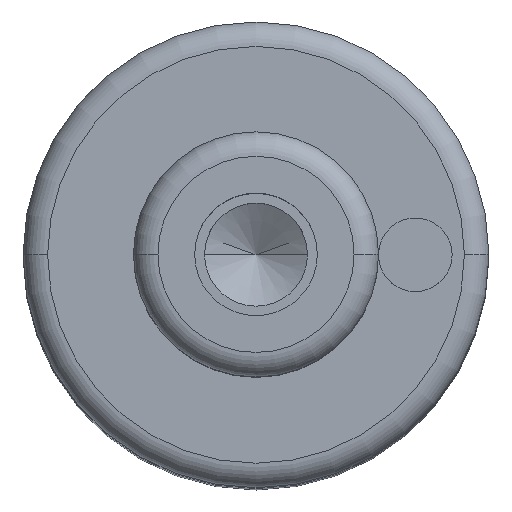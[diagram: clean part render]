
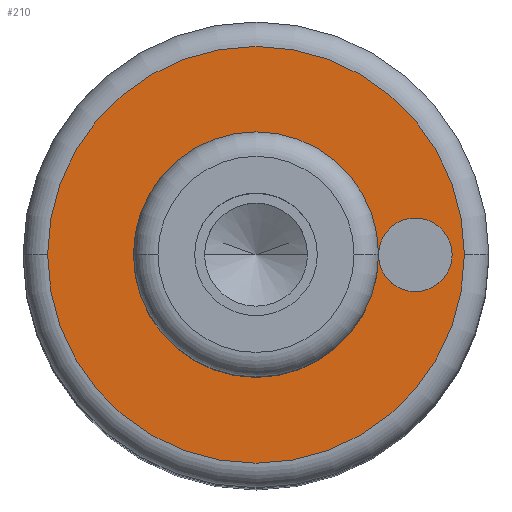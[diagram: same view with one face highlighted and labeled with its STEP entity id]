
A CAD part, top view. The second image highlights one B-rep face of the part: STEP entity #210.
In plain terms, the highlighted planar face has unit normal (0, 0, 1).
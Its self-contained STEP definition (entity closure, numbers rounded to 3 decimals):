
#99=PLANE('',#660);
#107=FACE_BOUND('',#285,.T.);
#108=FACE_BOUND('',#286,.T.);
#109=FACE_BOUND('',#287,.T.);
#210=ADVANCED_FACE('',(#107,#108,#109),#99,.T.);
#285=EDGE_LOOP('',(#395,#396));
#286=EDGE_LOOP('',(#397,#398));
#287=EDGE_LOOP('',(#399,#400));
#395=ORIENTED_EDGE('',*,*,#500,.F.);
#396=ORIENTED_EDGE('',*,*,#501,.F.);
#397=ORIENTED_EDGE('',*,*,#533,.F.);
#398=ORIENTED_EDGE('',*,*,#534,.F.);
#399=ORIENTED_EDGE('',*,*,#496,.T.);
#400=ORIENTED_EDGE('',*,*,#494,.T.);
#447=VERTEX_POINT('',#894);
#448=VERTEX_POINT('',#896);
#449=VERTEX_POINT('',#902);
#452=VERTEX_POINT('',#907);
#470=VERTEX_POINT('',#977);
#471=VERTEX_POINT('',#978);
#494=EDGE_CURVE('',#448,#447,#561,.T.);
#496=EDGE_CURVE('',#447,#448,#562,.T.);
#500=EDGE_CURVE('',#452,#449,#566,.T.);
#501=EDGE_CURVE('',#449,#452,#567,.T.);
#533=EDGE_CURVE('',#470,#471,#587,.T.);
#534=EDGE_CURVE('',#471,#470,#588,.T.);
#561=CIRCLE('',#612,5.);
#562=CIRCLE('',#614,5.);
#566=CIRCLE('',#619,8.5);
#567=CIRCLE('',#621,8.5);
#587=CIRCLE('',#658,1.5);
#588=CIRCLE('',#659,1.5);
#612=AXIS2_PLACEMENT_3D('',#895,#711,#712);
#614=AXIS2_PLACEMENT_3D('',#899,#716,#717);
#619=AXIS2_PLACEMENT_3D('',#908,#726,#727);
#621=AXIS2_PLACEMENT_3D('',#910,#730,#731);
#658=AXIS2_PLACEMENT_3D('',#976,#816,#817);
#659=AXIS2_PLACEMENT_3D('',#979,#818,#819);
#660=AXIS2_PLACEMENT_3D('',#980,#820,#821);
#711=DIRECTION('',(0.,0.,-1.));
#712=DIRECTION('',(-1.,0.,0.));
#716=DIRECTION('',(0.,0.,-1.));
#717=DIRECTION('',(-1.,0.,0.));
#726=DIRECTION('',(0.,0.,-1.));
#727=DIRECTION('',(-1.,0.,0.));
#730=DIRECTION('',(0.,0.,-1.));
#731=DIRECTION('',(-1.,0.,0.));
#816=DIRECTION('',(0.,0.,1.));
#817=DIRECTION('',(1.,0.,0.));
#818=DIRECTION('',(0.,0.,1.));
#819=DIRECTION('',(1.,0.,0.));
#820=DIRECTION('',(0.,0.,1.));
#821=DIRECTION('',(0.,-1.,0.));
#894=CARTESIAN_POINT('',(-5.,0.,54.));
#895=CARTESIAN_POINT('',(0.,0.,54.));
#896=CARTESIAN_POINT('',(5.,0.,54.));
#899=CARTESIAN_POINT('',(0.,0.,54.));
#902=CARTESIAN_POINT('',(-8.5,0.,54.));
#907=CARTESIAN_POINT('',(8.5,0.,54.));
#908=CARTESIAN_POINT('',(0.,0.,54.));
#910=CARTESIAN_POINT('',(0.,0.,54.));
#976=CARTESIAN_POINT('',(6.5,0.,54.));
#977=CARTESIAN_POINT('',(5.,0.,54.));
#978=CARTESIAN_POINT('',(8.,0.,54.));
#979=CARTESIAN_POINT('',(6.5,0.,54.));
#980=CARTESIAN_POINT('',(0.,0.,54.));
